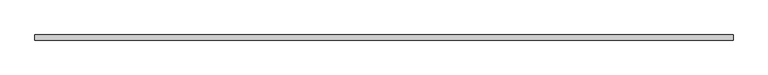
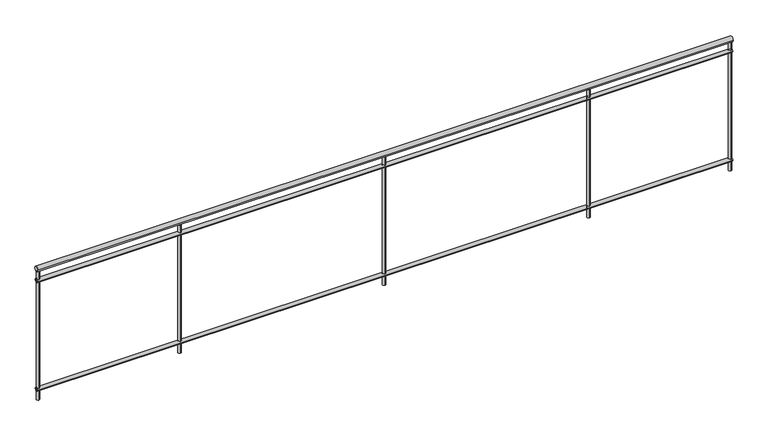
"""IFC4 building model written with IfcOpenShell, lengths in millimetres: railing geometry, バルコニー手摺."""

import ifcopenshell
import ifcopenshell.guid

model = None  # the IFC model being written
_history = None  # IfcOwnerHistory: only IFC2X3 demands one
_inside = {}  # id of a spatial element -> (the spatial element, [elements in it])
_under = {}  # id of a project, library or spatial element -> (it, [spatial elements below it])
_declared = {}  # id of a project -> (the project, [libraries it declares])
_typed = {}  # id of a type object -> (the type object, [elements of that type])
_made_of = {}  # id of a material, layer set ... -> (it, [elements and type objects made of it])


def new_model(schema):
    """Start an empty IFC model of exactly this schema.

    Asked for "IFC4X3", IfcOpenShell would pick the latest addendum, in which some entities
    have other attributes; the version numbers below select the first issue.
    IFC2X3 requires an IfcOwnerHistory on every rooted entity: one is made here for all.
    """
    global model, _history
    if schema == "IFC4X3":
        model = ifcopenshell.file(schema_version=(4, 3, 0, 0))
    else:
        model = ifcopenshell.file(schema=schema)
    _inside.clear()
    _under.clear()
    _declared.clear()
    _typed.clear()
    _made_of.clear()
    _history = None
    if model.schema == "IFC2X3":
        org = make("IfcOrganization", Name="unknown")
        user = make(
            "IfcPersonAndOrganization",
            ThePerson=make("IfcPerson", FamilyName="unknown"),
            TheOrganization=org,
        )
        app = make(
            "IfcApplication",
            ApplicationDeveloper=org,
            Version="unknown",
            ApplicationFullName="unknown",
            ApplicationIdentifier="unknown",
        )
        _history = make(
            "IfcOwnerHistory",
            OwningUser=user,
            OwningApplication=app,
            ChangeAction="ADDED",
            CreationDate=0,
        )
    return model


def make(cls, **values):
    """One entity of the class cls with the attributes given. An attribute that is None is left unset."""
    return model.create_entity(
        cls, **{name: value for name, value in values.items() if value is not None}
    )


def rooted(cls, **values):
    """An entity with a GlobalId (a new one), such as an element, a storey or a relation."""
    return make(cls, GlobalId=ifcopenshell.guid.new(), OwnerHistory=_history, **values)


def si_unit(unit_type, name, prefix=None):
    """IfcSIUnit, for example si_unit("LENGTHUNIT", "METRE", prefix="MILLI")."""
    return make("IfcSIUnit", UnitType=unit_type, Prefix=prefix, Name=name)


def assignment(units):
    """IfcUnitAssignment: the units of a project."""
    return None if units is None else make("IfcUnitAssignment", Units=units)


def point(xyz):
    """IfcCartesianPoint."""
    return None if xyz is None else make("IfcCartesianPoint", Coordinates=xyz)


def direction(xyz):
    """IfcDirection."""
    return None if xyz is None else make("IfcDirection", DirectionRatios=xyz)


def frame(location, z_axis=None, x_axis=None):
    """IfcAxis2Placement3D, a coordinate frame: its origin and axes. An axis left out is left unset."""
    return make(
        "IfcAxis2Placement3D",
        Location=point(location),
        Axis=direction(z_axis),
        RefDirection=direction(x_axis),
    )


def frame_2d(location, x_axis=None):
    """IfcAxis2Placement2D, a coordinate frame in the plane: its origin and x axis."""
    return make(
        "IfcAxis2Placement2D", Location=point(location), RefDirection=direction(x_axis)
    )


def origin():
    """The frame at (0, 0, 0) with its axes left unset."""
    return frame((0.0, 0.0, 0.0))


def place(relative_to, where):
    """IfcLocalPlacement: puts the frame where relative to a parent placement (None: the world)."""
    return make(
        "IfcLocalPlacement", PlacementRelTo=relative_to, RelativePlacement=where
    )


def context(
    kind, dimensions, precision=None, world=None, true_north=None, identifier=None
):
    """IfcGeometricRepresentationContext, for example the 3D "Model" context."""
    return make(
        "IfcGeometricRepresentationContext",
        ContextIdentifier=identifier,
        ContextType=kind,
        CoordinateSpaceDimension=dimensions,
        Precision=precision,
        WorldCoordinateSystem=world,
        TrueNorth=true_north,
    )


def project(units=None, contexts=None):
    """IfcProject with its units and contexts."""
    return rooted(
        "IfcProject",
        Name="project",
        RepresentationContexts=contexts,
        UnitsInContext=assignment(units),
    )


def spatial(cls, under=None, at=None, **own):
    """A site, building, storey or space (cls), placed at a placement, below another one or the project."""
    s = rooted(cls, ObjectPlacement=at, **own)
    if under is not None:
        _under.setdefault(under.id(), (under, []))[1].append(s)
    return s


def circle_curve(where, radius):
    """IfcCircle in the frame where."""
    return make("IfcCircle", Position=where, Radius=radius)


def trimmed(basis, trim1, trim2, sense, master):
    """IfcTrimmedCurve: the piece of a basis curve between two trims."""
    return make(
        "IfcTrimmedCurve",
        BasisCurve=basis,
        Trim1=trim1,
        Trim2=trim2,
        SenseAgreement=sense,
        MasterRepresentation=master,
    )


def segment(curve, same_sense, transition):
    """IfcCompositeCurveSegment."""
    return make(
        "IfcCompositeCurveSegment",
        Transition=transition,
        SameSense=same_sense,
        ParentCurve=curve,
    )


def composite_curve(segments, self_intersect=None):
    """IfcCompositeCurve: segments joined end to end."""
    return make("IfcCompositeCurve", Segments=segments, SelfIntersect=self_intersect)


def outline(outer, holes=None, kind="AREA"):
    """IfcArbitraryClosedProfileDef: a profile drawn as a closed curve; with holes, ...WithVoids."""
    if holes is None:
        return make("IfcArbitraryClosedProfileDef", ProfileType=kind, OuterCurve=outer)
    return make(
        "IfcArbitraryProfileDefWithVoids",
        ProfileType=kind,
        OuterCurve=outer,
        InnerCurves=holes,
    )


def extrude(swept, where, along, depth):
    """IfcExtrudedAreaSolid: the profile swept, set in the frame where, extruded along a direction by depth."""
    return make(
        "IfcExtrudedAreaSolid",
        SweptArea=swept,
        Position=where,
        ExtrudedDirection=direction(along),
        Depth=depth,
    )


def shape(context_of_items, identifier, shape_type, items):
    """IfcShapeRepresentation: the items that make up one representation, for example the "Body"."""
    return make(
        "IfcShapeRepresentation",
        ContextOfItems=context_of_items,
        RepresentationIdentifier=identifier,
        RepresentationType=shape_type,
        Items=items,
    )


def source(mapping_origin, context_of_items, identifier, shape_type, items):
    """IfcRepresentationMap: a shape defined once, which mapped items show again and again."""
    return make(
        "IfcRepresentationMap",
        MappingOrigin=mapping_origin,
        MappedRepresentation=shape(context_of_items, identifier, shape_type, items),
    )


def transform(
    local_origin,
    x_axis=None,
    y_axis=None,
    z_axis=None,
    scale=None,
    scale2=None,
    scale3=None,
    uniform=True,
):
    """IfcCartesianTransformationOperator3D, or its non-uniform kind. x_axis, y_axis, z_axis: its Axis1, 2, 3."""
    if uniform:
        return make(
            "IfcCartesianTransformationOperator3D",
            Axis1=direction(x_axis),
            Axis2=direction(y_axis),
            LocalOrigin=point(local_origin),
            Scale=scale,
            Axis3=direction(z_axis),
        )
    return make(
        "IfcCartesianTransformationOperator3DnonUniform",
        Axis1=direction(x_axis),
        Axis2=direction(y_axis),
        LocalOrigin=point(local_origin),
        Scale=scale,
        Axis3=direction(z_axis),
        Scale2=scale2,
        Scale3=scale3,
    )


def mapped(mapping_source, mapping_target):
    """IfcMappedItem: shows the shape of a source again, moved by a transform."""
    return make(
        "IfcMappedItem", MappingSource=mapping_source, MappingTarget=mapping_target
    )


def made_of(thing, what):
    """Note that an element or type object is made of a material, layer set ...; save() writes the relation."""
    if what is not None:
        _made_of.setdefault(what.id(), (what, []))[1].append(thing)
    return thing


def element(
    cls,
    number,
    at=None,
    inside=None,
    cuts=None,
    type_object=None,
    material=None,
    context=None,
    identifier="Body",
    shape_type=None,
    held_by="IfcProductDefinitionShape",
    body=None,
    shapes=None,
    **own,
):
    """One element of the class cls, such as IfcWall. Its Tag is "e" and its number.

    at: its placement. inside: the storey or other place that contains it. cuts: it is an
    opening in that element (IfcRelVoidsElement). A single representation is given by context,
    identifier, shape_type and body (its items); several are given by shapes. held_by: the class
    of the entity that holds the representations. save() writes the other relations.
    """
    e = rooted(cls, Tag="e%d" % number, ObjectPlacement=at, **own)
    if body is not None:
        shapes = [shape(context, identifier, shape_type, body)]
    if shapes is not None:
        e.Representation = make(held_by, Representations=shapes)
    if inside is not None:
        _inside.setdefault(inside.id(), (inside, []))[1].append(e)
    if cuts is not None:
        rooted(
            "IfcRelVoidsElement", RelatingBuildingElement=cuts, RelatedOpeningElement=e
        )
    if type_object is not None:
        _typed.setdefault(type_object.id(), (type_object, []))[1].append(e)
    return made_of(e, material)


def aggregate(whole, parts):
    """IfcRelAggregates: a whole, such as a stair, and the parts it consists of."""
    return rooted("IfcRelAggregates", RelatingObject=whole, RelatedObjects=parts)


def save(model, path):
    """Write the relations noted so far, then the file.

    IfcRelAggregates (storeys below a building ...), IfcRelContainedInSpatialStructure (elements
    in a storey), IfcRelDefinesByType, IfcRelAssociatesMaterial and IfcRelDeclares: one each for
    every whole, place, type object, material and project.
    """
    for whole, parts in _under.values():
        aggregate(whole, parts)
    for where, things in _inside.values():
        rooted(
            "IfcRelContainedInSpatialStructure",
            RelatedElements=things,
            RelatingStructure=where,
        )
    for kind, things in _typed.values():
        rooted("IfcRelDefinesByType", RelatedObjects=things, RelatingType=kind)
    for what, things in _made_of.values():
        rooted("IfcRelAssociatesMaterial", RelatedObjects=things, RelatingMaterial=what)
    for by, libraries in _declared.values():
        rooted("IfcRelDeclares", RelatingContext=by, RelatedDefinitions=libraries)
    model.write(path)


def railing_b6dd94c7(model_context):
    return source(origin(), model_context, "Body", "SweptSolid", [
        extrude(outline(composite_curve([segment(trimmed(circle_curve(frame_2d((10035.2598658, 10980.0)), 20.0), [point((10055.2598658, 10980.0))], [point((10015.2598658, 10980.0))], False, "CARTESIAN"), True, "CONTINUOUS"), segment(trimmed(circle_curve(frame_2d((10035.2598658, 10980.0)), 20.0), [point((10015.2598658, 10980.0))], [point((10055.2598658, 10980.0))], False, "CARTESIAN"), True, "CONTINUOUS")], self_intersect=False)), frame((-3045.6194095, 0.0, 0.0), z_axis=(1.0, 0.0, 0.0), x_axis=(0.0, 1.0, 0.0)), (0.0, 0.0, 1.0), 5440.0),
        extrude(outline(composite_curve([segment(trimmed(circle_curve(frame_2d((10035.2598658, 10885.0)), 15.0), [point((10050.2598658, 10885.0))], [point((10020.2598658, 10885.0))], False, "CARTESIAN"), True, "CONTINUOUS"), segment(trimmed(circle_curve(frame_2d((10035.2598658, 10885.0)), 15.0), [point((10020.2598658, 10885.0))], [point((10050.2598658, 10885.0))], False, "CARTESIAN"), True, "CONTINUOUS")], self_intersect=False)), frame((-3045.6194095, 0.0, 0.0), z_axis=(1.0, 0.0, 0.0), x_axis=(0.0, 1.0, 0.0)), (0.0, 0.0, 1.0), 5440.0),
        extrude(outline(composite_curve([segment(trimmed(circle_curve(frame_2d((10035.2598658, 9985.0)), 15.0), [point((10050.2598658, 9985.0))], [point((10020.2598658, 9985.0))], False, "CARTESIAN"), True, "CONTINUOUS"), segment(trimmed(circle_curve(frame_2d((10035.2598658, 9985.0)), 15.0), [point((10020.2598658, 9985.0))], [point((10050.2598658, 9985.0))], False, "CARTESIAN"), True, "CONTINUOUS")], self_intersect=False)), frame((-3045.6194095, 0.0, 0.0), z_axis=(1.0, 0.0, 0.0), x_axis=(0.0, 1.0, 0.0)), (0.0, 0.0, 1.0), 5440.0),
        extrude(outline(composite_curve([segment(trimmed(circle_curve(frame_2d((-1925.6194095, 10035.2598658)), 12.5), [point((-1925.6194095, 10047.7598658))], [point((-1925.6194095, 10022.7598658))], False, "CARTESIAN"), True, "CONTINUOUS"), segment(trimmed(circle_curve(frame_2d((-1925.6194095, 10035.2598658)), 12.5), [point((-1925.6194095, 10022.7598658))], [point((-1925.6194095, 10047.7598658))], False, "CARTESIAN"), True, "CONTINUOUS")], self_intersect=False)), frame((0.0, 0.0, 9900.0), z_axis=(0.0, 0.0, 1.0), x_axis=(1.0, 0.0, 0.0)), (0.0, 0.0, 1.0), 1060.0),
        extrude(outline(composite_curve([segment(trimmed(circle_curve(frame_2d((-325.6194095, 10035.2598658)), 12.5), [point((-325.6194095, 10047.7598658))], [point((-325.6194095, 10022.7598658))], False, "CARTESIAN"), True, "CONTINUOUS"), segment(trimmed(circle_curve(frame_2d((-325.6194095, 10035.2598658)), 12.5), [point((-325.6194095, 10022.7598658))], [point((-325.6194095, 10047.7598658))], False, "CARTESIAN"), True, "CONTINUOUS")], self_intersect=False)), frame((0.0, 0.0, 9900.0), z_axis=(0.0, 0.0, 1.0), x_axis=(1.0, 0.0, 0.0)), (0.0, 0.0, 1.0), 1060.0),
        extrude(outline(composite_curve([segment(trimmed(circle_curve(frame_2d((1274.3805905, 10035.2598658)), 12.5), [point((1274.3805905, 10047.7598658))], [point((1274.3805905, 10022.7598658))], False, "CARTESIAN"), True, "CONTINUOUS"), segment(trimmed(circle_curve(frame_2d((1274.3805905, 10035.2598658)), 12.5), [point((1274.3805905, 10022.7598658))], [point((1274.3805905, 10047.7598658))], False, "CARTESIAN"), True, "CONTINUOUS")], self_intersect=False)), frame((0.0, 0.0, 9900.0), z_axis=(0.0, 0.0, 1.0), x_axis=(1.0, 0.0, 0.0)), (0.0, 0.0, 1.0), 1060.0),
        extrude(outline(composite_curve([segment(trimmed(circle_curve(frame_2d((-3033.4194095, 10035.2598658)), 12.5), [point((-3033.4194095, 10047.7598658))], [point((-3033.4194095, 10022.7598658))], False, "CARTESIAN"), True, "CONTINUOUS"), segment(trimmed(circle_curve(frame_2d((-3033.4194095, 10035.2598658)), 12.5), [point((-3033.4194095, 10022.7598658))], [point((-3033.4194095, 10047.7598658))], False, "CARTESIAN"), True, "CONTINUOUS")], self_intersect=False)), frame((0.0, 0.0, 9900.0), z_axis=(0.0, 0.0, 1.0), x_axis=(1.0, 0.0, 0.0)), (0.0, 0.0, 1.0), 1060.0),
        extrude(outline(composite_curve([segment(trimmed(circle_curve(frame_2d((2382.1805905, 10035.2598658)), 12.5), [point((2382.1805905, 10047.7598658))], [point((2382.1805905, 10022.7598658))], False, "CARTESIAN"), True, "CONTINUOUS"), segment(trimmed(circle_curve(frame_2d((2382.1805905, 10035.2598658)), 12.5), [point((2382.1805905, 10022.7598658))], [point((2382.1805905, 10047.7598658))], False, "CARTESIAN"), True, "CONTINUOUS")], self_intersect=False)), frame((0.0, 0.0, 9900.0), z_axis=(0.0, 0.0, 1.0), x_axis=(1.0, 0.0, 0.0)), (0.0, 0.0, 1.0), 1060.0),
    ])


if __name__ == "__main__":
    model = new_model("IFC4")
    model_context = context("Model", 3, world=origin())
    ifc_project = project(units=[si_unit("LENGTHUNIT", "METRE", prefix="MILLI")], contexts=[model_context])
    site = spatial("IfcSite", under=ifc_project)
    building = spatial("IfcBuilding", under=site)
    placement = place(None, origin())
    railing_shape = railing_b6dd94c7(model_context)
    element("IfcRailing", 1, ObjectType="バルコニー手摺", at=placement, inside=building, context=model_context, shape_type="MappedRepresentation", body=[
        mapped(railing_shape, transform((0.0, 0.0, 0.0), x_axis=(1.0, 0.0, 0.0), y_axis=(0.0, 1.0, 0.0), z_axis=(0.0, 0.0, 1.0))),
    ])
    save(model, "model.ifc")
